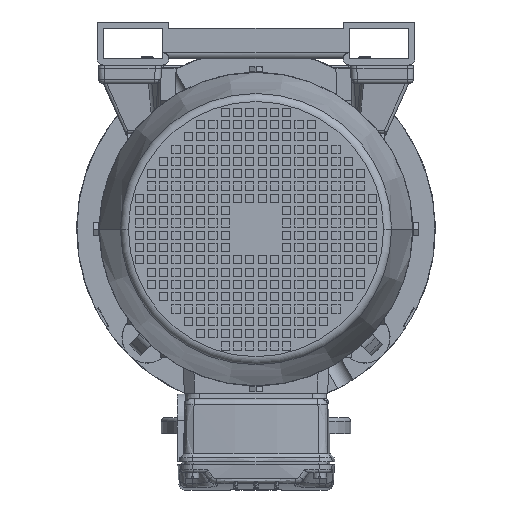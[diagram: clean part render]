
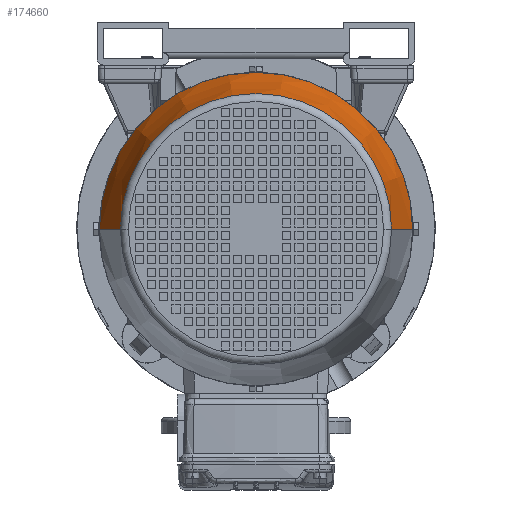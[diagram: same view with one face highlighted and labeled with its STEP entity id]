
A CAD part, front view. The second image highlights one B-rep face of the part: STEP entity #174660.
In plain terms, the highlighted conical face has half-angle 11 degrees and reference radius 132.258 mm.
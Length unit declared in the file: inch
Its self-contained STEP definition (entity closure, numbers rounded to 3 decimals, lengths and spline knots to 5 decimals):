
#8410 = VECTOR ( 'NONE', #131085, 39.37008 ) ;
#18075 = LINE ( 'NONE', #94076, #66945 ) ;
#19421 = DIRECTION ( 'NONE',  ( 0., 0., 1. ) ) ;
#20099 = EDGE_CURVE ( 'NONE', #150972, #158733, #18075, .T. ) ;
#23714 = CARTESIAN_POINT ( 'NONE',  ( 0., 0., -11.12899 ) ) ;
#24553 = DIRECTION ( 'NONE',  ( 1., 0., 0. ) ) ;
#25649 = VERTEX_POINT ( 'NONE', #137341 ) ;
#26540 = CARTESIAN_POINT ( 'NONE',  ( 0., 0., -11.12899 ) ) ;
#31477 = ORIENTED_EDGE ( 'NONE', *, *, #155855, .T. ) ;
#34627 = CARTESIAN_POINT ( 'NONE',  ( 0., 0., -6.96516 ) ) ;
#38873 = LINE ( 'NONE', #40874, #8410 ) ;
#39927 = DIRECTION ( 'NONE',  ( 1., 0., 0. ) ) ;
#40874 = CARTESIAN_POINT ( 'NONE',  ( 5.20702, 0., -11.12899 ) ) ;
#42655 = CIRCLE ( 'NONE', #197855, 6.01639 ) ;
#45196 = ORIENTED_EDGE ( 'NONE', *, *, #20099, .F. ) ;
#48491 = DIRECTION ( 'NONE',  ( -0.191, 0., 0.982 ) ) ;
#64029 = DIRECTION ( 'NONE',  ( 1., 0., 0. ) ) ;
#66269 = EDGE_LOOP ( 'NONE', ( #45196, #31477, #180698, #124705 ) ) ;
#66945 = VECTOR ( 'NONE', #48491, 39.37008 ) ;
#70613 = CARTESIAN_POINT ( 'NONE',  ( 5.20702, 0., -11.12899 ) ) ;
#94076 = CARTESIAN_POINT ( 'NONE',  ( -5.20702, 0., -11.12899 ) ) ;
#106094 = EDGE_CURVE ( 'NONE', #158733, #25649, #42655, .T. ) ;
#113155 = EDGE_CURVE ( 'NONE', #145841, #25649, #38873, .T. ) ;
#124705 = ORIENTED_EDGE ( 'NONE', *, *, #106094, .F. ) ;
#131085 = DIRECTION ( 'NONE',  ( 0.191, 0., 0.982 ) ) ;
#137341 = CARTESIAN_POINT ( 'NONE',  ( 6.01639, 0., -6.96516 ) ) ;
#145841 = VERTEX_POINT ( 'NONE', #70613 ) ;
#148947 = CARTESIAN_POINT ( 'NONE',  ( -5.20702, 0., -11.12899 ) ) ;
#150972 = VERTEX_POINT ( 'NONE', #148947 ) ;
#155855 = EDGE_CURVE ( 'NONE', #150972, #145841, #198916, .T. ) ;
#158733 = VERTEX_POINT ( 'NONE', #198297 ) ;
#160014 = AXIS2_PLACEMENT_3D ( 'NONE', #23714, #194932, #39927 ) ;
#164078 = CONICAL_SURFACE ( 'NONE', #173729, 5.20702, 0.192 ) ;
#173729 = AXIS2_PLACEMENT_3D ( 'NONE', #26540, #179555, #24553 ) ;
#174660 = ADVANCED_FACE ( 'NONE', ( #183542 ), #164078, .T. ) ;
#179555 = DIRECTION ( 'NONE',  ( 0., 0., 1. ) ) ;
#180698 = ORIENTED_EDGE ( 'NONE', *, *, #113155, .T. ) ;
#183542 = FACE_OUTER_BOUND ( 'NONE', #66269, .T. ) ;
#194932 = DIRECTION ( 'NONE',  ( 0., 0., 1. ) ) ;
#197855 = AXIS2_PLACEMENT_3D ( 'NONE', #34627, #19421, #64029 ) ;
#198297 = CARTESIAN_POINT ( 'NONE',  ( -6.01639, 0., -6.96516 ) ) ;
#198916 = CIRCLE ( 'NONE', #160014, 5.20702 ) ;
